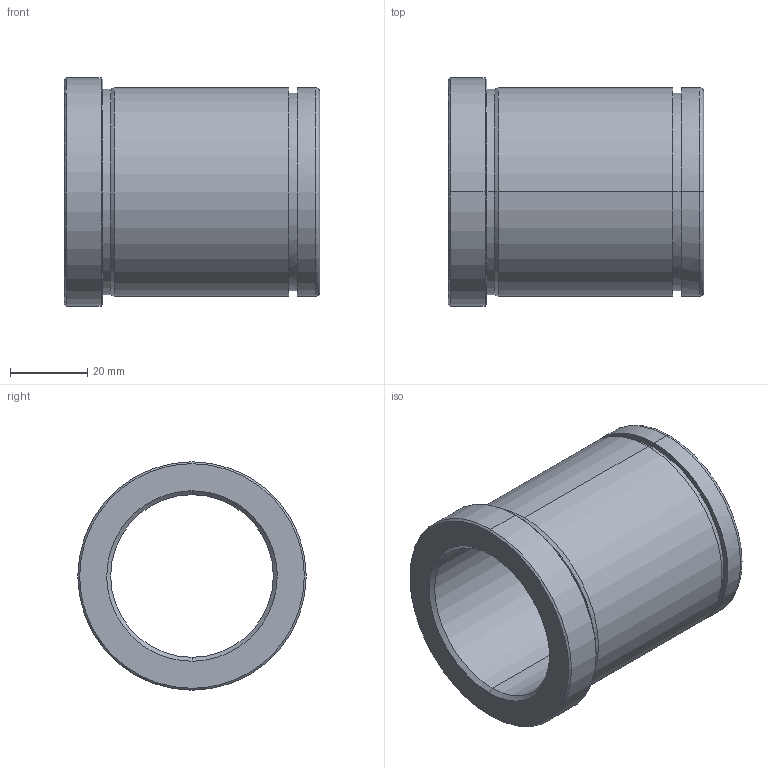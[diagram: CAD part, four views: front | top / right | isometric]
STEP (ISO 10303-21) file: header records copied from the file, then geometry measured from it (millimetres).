
FILE_DESCRIPTION(('CATIA V5 STEP Exchange'),'2;1');
FILE_NAME('C:\Users\Utente\Desktop\IO LAVORO\3D X SITO CF\X SITO\PLASTICA\553\553-42X66.stp','2021-06-08T17:55:02+00:00',('none'),('none'),'CATIA Version 5 Release 20 GA (IN-10)','CATIA V5 STEP AP203','none');
FILE_SCHEMA(('CONFIG_CONTROL_DESIGN'));
Length unit declared in the file: millimetre
Products named in the file (1): 553-42X66
Bounding box: 66 x 59 x 59 mm (x, y, z)
Volume: 63069.5 mm3; surface area: 22920.7 mm2
Topology: 1 solids, 1 shells, 29 faces, 92 edges, 68 vertices
Faces by surface type: cylinder 12, cone 8, plane 5, torus 4
Entity records: 1222 total; most frequent: CARTESIAN_POINT 368, ORIENTED_EDGE 184, DIRECTION 136, EDGE_CURVE 92, AXIS2_PLACEMENT_3D 88, VERTEX_POINT 68, CIRCLE 58, EDGE_LOOP 34
